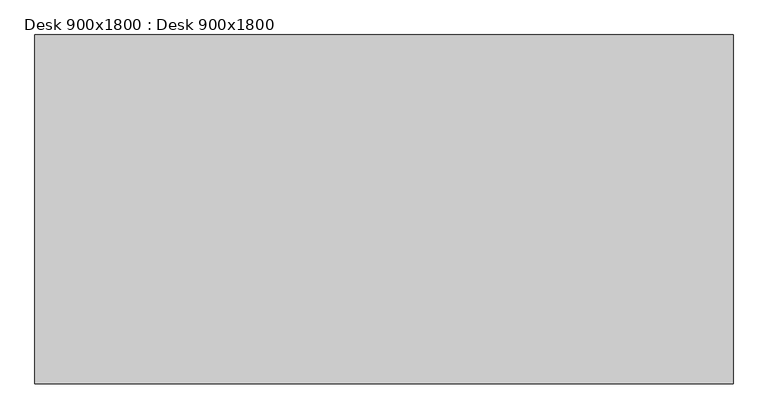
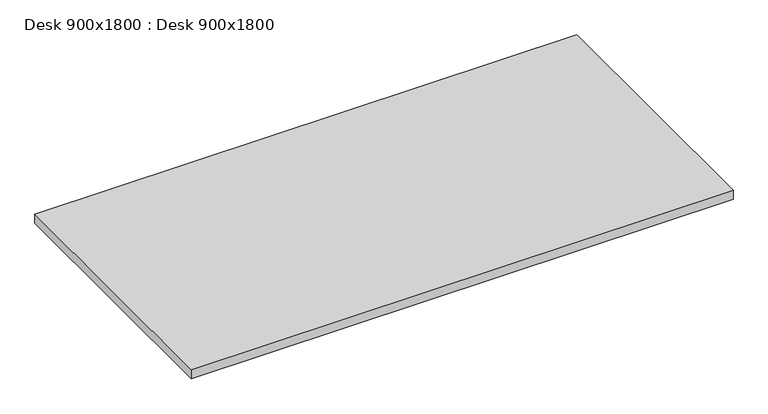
"""IFC4 building model written with IfcOpenShell, lengths in millimetres: furniture geometry, Desk 900x1800 : Desk 900x1800."""

from ifc_helpers import new_model, si_unit, frame, origin, place, context, project, spatial, polyline, outline, extrude, source, transform, mapped, element, save


def desk_900x1800_desk_900x1800_b530369f(model_context):
    return source(origin(), model_context, "Body", "SweptSolid", [
        extrude(outline(polyline([(-900.0, 0.0), (-900.0, 900.0), (900.0, 900.0), (900.0, 0.0), (-900.0, 0.0)])), frame((0.0, 0.0, 718.0), z_axis=(0.0, 0.0, 1.0), x_axis=(1.0, 0.0, 0.0)), (0.0, 0.0, 1.0), 32.0),
    ])


if __name__ == "__main__":
    model = new_model("IFC4")
    model_context = context("Model", 3, world=origin())
    ifc_project = project(units=[si_unit("LENGTHUNIT", "METRE", prefix="MILLI")], contexts=[model_context])
    site = spatial("IfcSite", under=ifc_project)
    building = spatial("IfcBuilding", under=site)
    placement = place(None, origin())
    desk_900x1800_desk_900x1800_shape = desk_900x1800_desk_900x1800_b530369f(model_context)
    element("IfcFurniture", 1, ObjectType="Desk 900x1800 : Desk 900x1800", at=placement, inside=building, context=model_context, shape_type="MappedRepresentation", body=[
        mapped(desk_900x1800_desk_900x1800_shape, transform((0.0, 0.0, 0.0), x_axis=(1.0, 0.0, 0.0), y_axis=(0.0, 1.0, 0.0), z_axis=(0.0, 0.0, 1.0))),
    ])
    save(model, "model.ifc")
